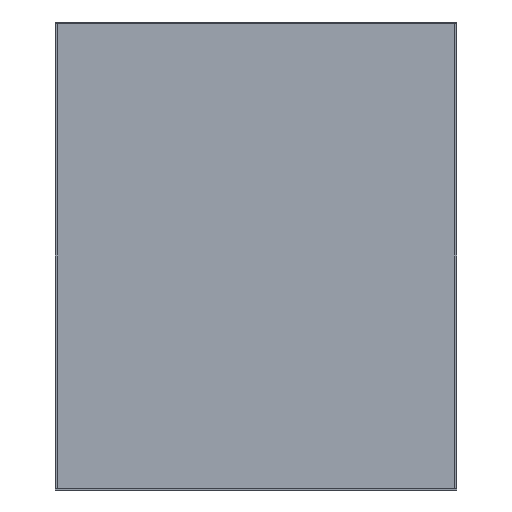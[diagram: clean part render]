
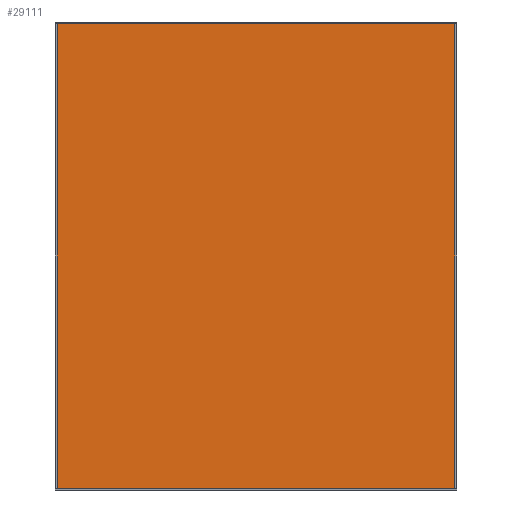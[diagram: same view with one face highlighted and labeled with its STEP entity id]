
A CAD part, front view. The second image highlights one B-rep face of the part: STEP entity #29111.
In plain terms, the highlighted planar face has unit normal (0, -1, 0).
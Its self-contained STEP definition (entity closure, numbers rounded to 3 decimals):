
#28895 = EDGE_CURVE('',#28896,#28898,#28900,.T.);
#28896 = VERTEX_POINT('',#28897);
#28897 = CARTESIAN_POINT('',(-0.155,-0.096,0.002)
  );
#28898 = VERTEX_POINT('',#28899);
#28899 = CARTESIAN_POINT('',(-0.155,-0.096,
    0.364));
#28900 = SURFACE_CURVE('',#28901,(#28905,#28917),.PCURVE_S1.);
#28901 = LINE('',#28902,#28903);
#28902 = CARTESIAN_POINT('',(-0.155,-0.096,0.002)
  );
#28903 = VECTOR('',#28904,1.);
#28904 = DIRECTION('',(0.,0.,1.));
#28905 = PCURVE('',#28906,#28911);
#28906 = PLANE('',#28907);
#28907 = AXIS2_PLACEMENT_3D('',#28908,#28909,#28910);
#28908 = CARTESIAN_POINT('',(-0.155,-0.096,0.002)
  );
#28909 = DIRECTION('',(1.,0.,0.));
#28910 = DIRECTION('',(0.,0.,1.));
#28911 = DEFINITIONAL_REPRESENTATION('',(#28912),#28916);
#28912 = LINE('',#28913,#28914);
#28913 = CARTESIAN_POINT('',(0.,0.));
#28914 = VECTOR('',#28915,1.);
#28915 = DIRECTION('',(1.,0.));
#28916 = ( GEOMETRIC_REPRESENTATION_CONTEXT(2) 
PARAMETRIC_REPRESENTATION_CONTEXT() REPRESENTATION_CONTEXT('2D SPACE',''
  ) );
#28917 = PCURVE('',#28918,#28923);
#28918 = PLANE('',#28919);
#28919 = AXIS2_PLACEMENT_3D('',#28920,#28921,#28922);
#28920 = CARTESIAN_POINT('',(-0.155,-0.096,0.002)
  );
#28921 = DIRECTION('',(0.,1.,0.));
#28922 = DIRECTION('',(0.,0.,1.));
#28923 = DEFINITIONAL_REPRESENTATION('',(#28924),#28928);
#28924 = LINE('',#28925,#28926);
#28925 = CARTESIAN_POINT('',(0.,0.));
#28926 = VECTOR('',#28927,1.);
#28927 = DIRECTION('',(1.,0.));
#28928 = ( GEOMETRIC_REPRESENTATION_CONTEXT(2) 
PARAMETRIC_REPRESENTATION_CONTEXT() REPRESENTATION_CONTEXT('2D SPACE',''
  ) );
#28946 = PLANE('',#28947);
#28947 = AXIS2_PLACEMENT_3D('',#28948,#28949,#28950);
#28948 = CARTESIAN_POINT('',(-0.155,-0.096,0.002)
  );
#28949 = DIRECTION('',(0.,0.,1.));
#28950 = DIRECTION('',(1.,0.,0.));
#29000 = PLANE('',#29001);
#29001 = AXIS2_PLACEMENT_3D('',#29002,#29003,#29004);
#29002 = CARTESIAN_POINT('',(-0.155,-0.096,
    0.364));
#29003 = DIRECTION('',(0.,0.,1.));
#29004 = DIRECTION('',(1.,0.,0.));
#29015 = EDGE_CURVE('',#29016,#29018,#29020,.T.);
#29016 = VERTEX_POINT('',#29017);
#29017 = CARTESIAN_POINT('',(0.155,-0.096,0.002)
  );
#29018 = VERTEX_POINT('',#29019);
#29019 = CARTESIAN_POINT('',(0.155,-0.096,
    0.364));
#29020 = SURFACE_CURVE('',#29021,(#29025,#29037),.PCURVE_S1.);
#29021 = LINE('',#29022,#29023);
#29022 = CARTESIAN_POINT('',(0.155,-0.096,0.002)
  );
#29023 = VECTOR('',#29024,1.);
#29024 = DIRECTION('',(0.,0.,1.));
#29025 = PCURVE('',#29026,#29031);
#29026 = PLANE('',#29027);
#29027 = AXIS2_PLACEMENT_3D('',#29028,#29029,#29030);
#29028 = CARTESIAN_POINT('',(0.155,-0.096,0.002)
  );
#29029 = DIRECTION('',(1.,0.,0.));
#29030 = DIRECTION('',(0.,0.,1.));
#29031 = DEFINITIONAL_REPRESENTATION('',(#29032),#29036);
#29032 = LINE('',#29033,#29034);
#29033 = CARTESIAN_POINT('',(0.,0.));
#29034 = VECTOR('',#29035,1.);
#29035 = DIRECTION('',(1.,0.));
#29036 = ( GEOMETRIC_REPRESENTATION_CONTEXT(2) 
PARAMETRIC_REPRESENTATION_CONTEXT() REPRESENTATION_CONTEXT('2D SPACE',''
  ) );
#29037 = PCURVE('',#28918,#29038);
#29038 = DEFINITIONAL_REPRESENTATION('',(#29039),#29043);
#29039 = LINE('',#29040,#29041);
#29040 = CARTESIAN_POINT('',(0.,0.31));
#29041 = VECTOR('',#29042,1.);
#29042 = DIRECTION('',(1.,0.));
#29043 = ( GEOMETRIC_REPRESENTATION_CONTEXT(2) 
PARAMETRIC_REPRESENTATION_CONTEXT() REPRESENTATION_CONTEXT('2D SPACE',''
  ) );
#29111 = ADVANCED_FACE('',(#29112),#28918,.F.);
#29112 = FACE_BOUND('',#29113,.F.);
#29113 = EDGE_LOOP('',(#29114,#29135,#29136,#29157));
#29114 = ORIENTED_EDGE('',*,*,#29115,.F.);
#29115 = EDGE_CURVE('',#28896,#29016,#29116,.T.);
#29116 = SURFACE_CURVE('',#29117,(#29121,#29128),.PCURVE_S1.);
#29117 = LINE('',#29118,#29119);
#29118 = CARTESIAN_POINT('',(-0.155,-0.096,0.002)
  );
#29119 = VECTOR('',#29120,1.);
#29120 = DIRECTION('',(1.,0.,0.));
#29121 = PCURVE('',#28918,#29122);
#29122 = DEFINITIONAL_REPRESENTATION('',(#29123),#29127);
#29123 = LINE('',#29124,#29125);
#29124 = CARTESIAN_POINT('',(0.,0.));
#29125 = VECTOR('',#29126,1.);
#29126 = DIRECTION('',(0.,1.));
#29127 = ( GEOMETRIC_REPRESENTATION_CONTEXT(2) 
PARAMETRIC_REPRESENTATION_CONTEXT() REPRESENTATION_CONTEXT('2D SPACE',''
  ) );
#29128 = PCURVE('',#28946,#29129);
#29129 = DEFINITIONAL_REPRESENTATION('',(#29130),#29134);
#29130 = LINE('',#29131,#29132);
#29131 = CARTESIAN_POINT('',(0.,0.));
#29132 = VECTOR('',#29133,1.);
#29133 = DIRECTION('',(1.,0.));
#29134 = ( GEOMETRIC_REPRESENTATION_CONTEXT(2) 
PARAMETRIC_REPRESENTATION_CONTEXT() REPRESENTATION_CONTEXT('2D SPACE',''
  ) );
#29135 = ORIENTED_EDGE('',*,*,#28895,.T.);
#29136 = ORIENTED_EDGE('',*,*,#29137,.T.);
#29137 = EDGE_CURVE('',#28898,#29018,#29138,.T.);
#29138 = SURFACE_CURVE('',#29139,(#29143,#29150),.PCURVE_S1.);
#29139 = LINE('',#29140,#29141);
#29140 = CARTESIAN_POINT('',(-0.155,-0.096,
    0.364));
#29141 = VECTOR('',#29142,1.);
#29142 = DIRECTION('',(1.,0.,0.));
#29143 = PCURVE('',#28918,#29144);
#29144 = DEFINITIONAL_REPRESENTATION('',(#29145),#29149);
#29145 = LINE('',#29146,#29147);
#29146 = CARTESIAN_POINT('',(0.362,0.));
#29147 = VECTOR('',#29148,1.);
#29148 = DIRECTION('',(0.,1.));
#29149 = ( GEOMETRIC_REPRESENTATION_CONTEXT(2) 
PARAMETRIC_REPRESENTATION_CONTEXT() REPRESENTATION_CONTEXT('2D SPACE',''
  ) );
#29150 = PCURVE('',#29000,#29151);
#29151 = DEFINITIONAL_REPRESENTATION('',(#29152),#29156);
#29152 = LINE('',#29153,#29154);
#29153 = CARTESIAN_POINT('',(0.,0.));
#29154 = VECTOR('',#29155,1.);
#29155 = DIRECTION('',(1.,0.));
#29156 = ( GEOMETRIC_REPRESENTATION_CONTEXT(2) 
PARAMETRIC_REPRESENTATION_CONTEXT() REPRESENTATION_CONTEXT('2D SPACE',''
  ) );
#29157 = ORIENTED_EDGE('',*,*,#29015,.F.);
